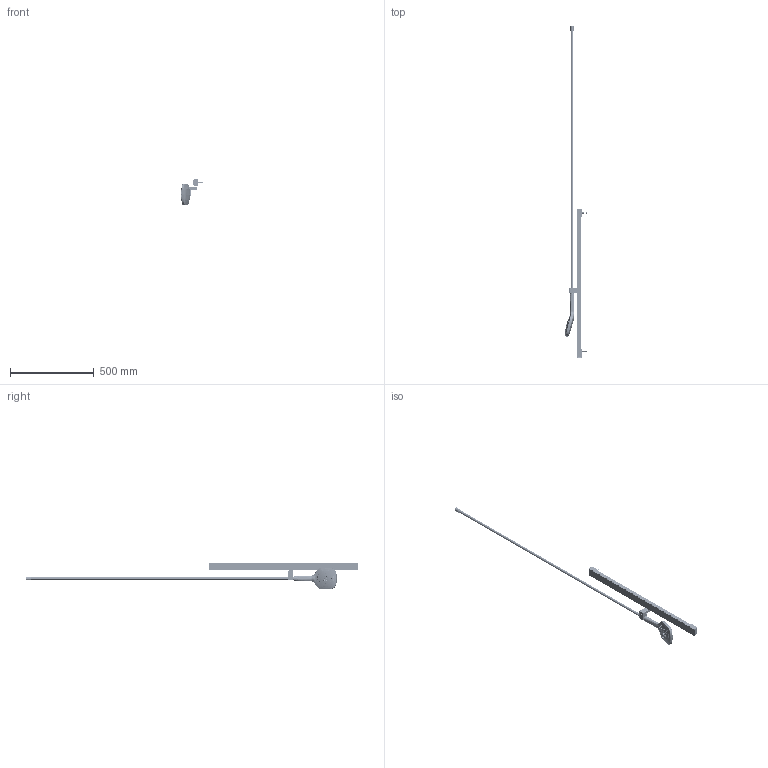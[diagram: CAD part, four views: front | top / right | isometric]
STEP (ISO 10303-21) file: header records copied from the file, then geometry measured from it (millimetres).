
FILE_DESCRIPTION(/* description */ (''),/* implementation_level */ '2;1');
FILE_NAME(/* name */ '3D_TVS11000300061_ShowerSetWithoutShelf_SHELL_FINAL.stp',/* time_stamp */ '2023-09-12T14:17:59+02:00',/* author */ (''),/* organization */ (''),/* preprocessor_version */ 'ST-DEVELOPER v18.1',/* originating_system */ 'SIEMENS PLM Software NX 1973',/* authorisation */ '');
FILE_SCHEMA (('AUTOMOTIVE_DESIGN { 1 0 10303 214 3 1 1 }'));
Length unit declared in the file: millimetre
Products named in the file (31): H21085-101970532; H21235-401963203; P82800-010930036; P96000-008911923; P96000-002700304; P96000-001422758; M51980-018325032; M51980-019322721; B36370-005321660; M51980-015292675; M51980-014277396; M51980-013268151; M51980-012182068; M51980-007146315; M51980-011121014; M51980-02789878; 30100036108005; M50020-091326872; 30100227109560; P42300-02598902; M51980-00596318; M51980-00493747; M51980-02436741; M51980-02336520; M51980-00224002; M51980-0014924; H21235_ASM963244; P96000_ASM422799; M51980-006_ASM116727; M51980-025_ASM61191; 3D_TVS11000300061_ShowerSetWithoutShelf_SHELL_stp
Assembly tree (44 placements, depth 3):
  3D_TVS11000300061_ShowerSetWithoutShelf_SHELL_stp
    M51980-0014924
    M51980-00224002  x2
    M51980-02336520
    M51980-02436741
    M51980-025_ASM61191
      M51980-02789878  x2
    M51980-00493747
    M51980-00596318
    P42300-02598902  x2
    30100227109560  x4
    M51980-006_ASM116727
      M51980-011121014
      M51980-007146315
      M51980-012182068
      M51980-013268151
      M51980-014277396  x2
      M51980-015292675  x2
      B36370-005321660  x2
      M51980-019322721  x2
      30100227109560  x2
      M51980-018325032
    M50020-091326872  x2
    30100036108005
    P96000_ASM422799
      P96000-001422758
      P96000-002700304
      P96000-008911923
      P82800-010930036
    H21235_ASM963244
      H21235-401963203
      H21085-101970532  x2
Bounding box: 133.17 x 1980.25 x 160.12 mm (x, y, z)
Volume: 784459.4 mm3; surface area: 765910.8 mm2
Topology: 45 solids, 45 shells, 11115 faces, 28186 edges, 17549 vertices
Faces by surface type: plane 3611, cylinder 3289, cone 2026, bspline 1216, torus 484, sphere 205, extrusion 187, revolution 97
Entity records: 529739 total; most frequent: CARTESIAN_POINT 306715, ORIENTED_EDGE 48666, DIRECTION 42244, EDGE_CURVE 24333, AXIS2_PLACEMENT_3D 15848, VERTEX_POINT 15200, VECTOR 10481, EDGE_LOOP 10473
